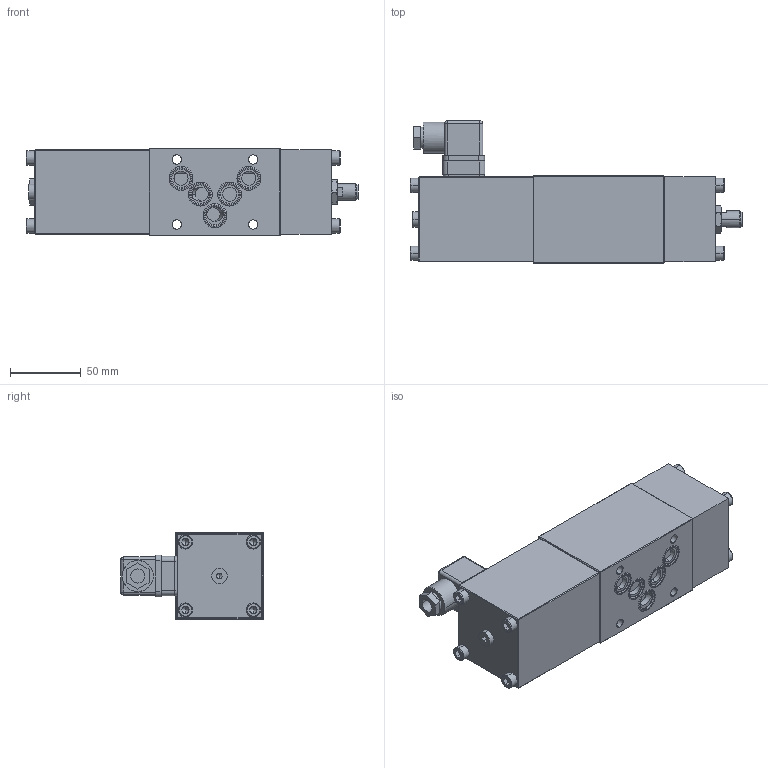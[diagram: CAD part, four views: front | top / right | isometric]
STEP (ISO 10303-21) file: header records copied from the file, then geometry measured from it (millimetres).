
FILE_DESCRIPTION (( 'STEP AP214' ), '1' );
FILE_NAME ('A.22101a-Z482, Z603, Z680.STEP', '2017-03-08T07:02:07', ( '' ), ( '' ), 'SwSTEP 2.0', 'SolidWorks 2016', '' );
FILE_SCHEMA (( 'AUTOMOTIVE_DESIGN' ));
Length unit declared in the file: millimetre
Products named in the file (1): A.22101a-Z482, Z603, Z680
Bounding box: 234.91 x 100.8 x 62 mm (x, y, z)
Volume: 798511 mm3; surface area: 103736.7 mm2
Topology: 12 solids, 22 shells, 889 faces, 2172 edges, 1359 vertices
Faces by surface type: plane 460, cylinder 261, cone 84, bspline 52, torus 32
Entity records: 37269 total; most frequent: CARTESIAN_POINT 6490, DIRECTION 4434, ORIENTED_EDGE 4288, EDGE_CURVE 2144, AXIS2_PLACEMENT_3D 1603, VERTEX_POINT 1359, VECTOR 1228, LINE 1228
